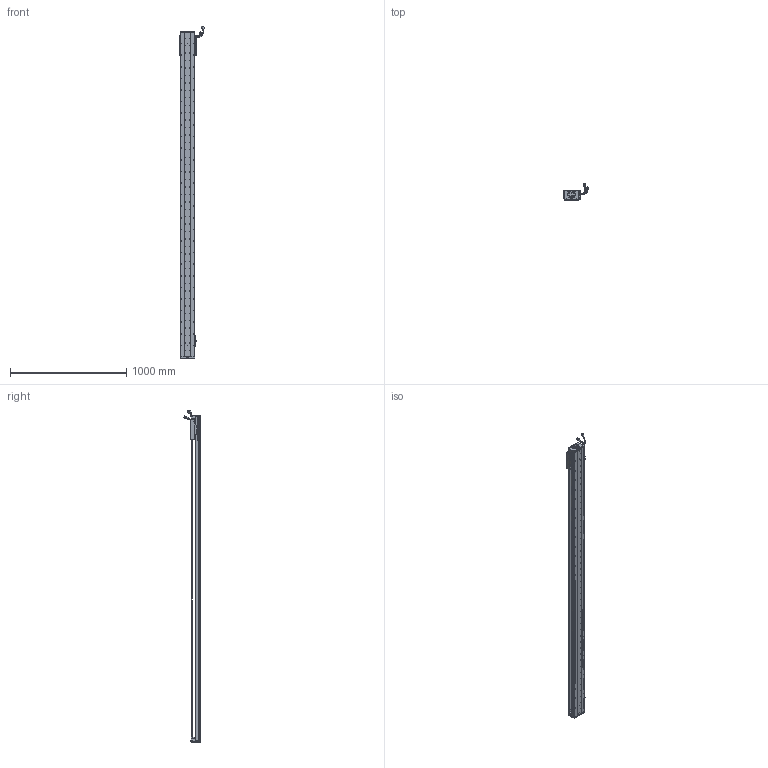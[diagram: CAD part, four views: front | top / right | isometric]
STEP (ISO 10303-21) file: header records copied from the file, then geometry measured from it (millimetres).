
FILE_DESCRIPTION (( 'STEP AP203' ), '1' );
FILE_NAME ('Z2-RY120D-1-L500-B-K.SLDASM_2550.step', '2021-05-17T05:39:31', ( '盈信电脑' ), ( '东莞市道滘镇水果街19号' ), 'SwSTEP 2.0', 'SolidWorks 2016', '' );
FILE_SCHEMA (( 'CONFIG_CONTROL_DESIGN' ));
Length unit declared in the file: millimetre
Products named in the file (37): PBU_SHEET; SHIELDPLATE; 榋妏寠巭燃_暯_M2_2; LABEL-Part-1; SCREW-M1.6-3; SCALE-Part-2; 080黍杅芛假蚾釱21遴; SCREW-M1.6-1; 覜茼ん672; SCREW-M1.6; HARNESS-Part-1; 120-Z-臏賑輸盄裔(21遴); Z-120詩湍傷裔啣; Z-RY120D詩湍奻揤裔; Z2-RY120D-1-L500-B-K.SLDASM_2550; SEAL; SCALE; COVER; Z2-RY120铝滑块（21款）; Z-RY120D詩湍狟揤裔; COVER-Part-1; Z2-RY120-L500詩湍100mm遵_2550; 140蚥薯蝶輸; SCALE-Part-1; 140雄赽晤鎢ん堤盄; 672嫖萇羲壽假蚾釱; PSLH080_PSLF2; SCREW-M1.7-1; Z2-RY120-500-倰第菁釱_2550; HARNESS-Part-2; LABEL; RY100FB-遵嫖萇覜茼え; HOLDER0; SEAL-Part-1; SCREW-M1.7; SCREW-M1.6-2; HARNESS
Assembly tree (43 placements, depth 4):
  Z2-RY120D-1-L500-B-K.SLDASM_2550
    Z2-RY120-500-倰第菁釱_2550
    覜茼ん672  x3
    672嫖萇羲壽假蚾釱  x2
    Z2-RY120铝滑块（21款）
    PSLH080_PSLF2
      SCALE
        SCALE-Part-1
        SCALE-Part-2
      HARNESS
        HARNESS-Part-1
        HARNESS-Part-2
      LABEL
        LABEL-Part-1
      COVER
        COVER-Part-1
      SEAL
        SEAL-Part-1
      榋妏寠巭燃_暯_M2_2
      SHIELDPLATE
      SCREW-M1.7
      SCREW-M1.7-1
      PBU_SHEET
      SCREW-M1.6
      SCREW-M1.6-1
      SCREW-M1.6-2
      SCREW-M1.6-3
      HOLDER0
    080黍杅芛假蚾釱21遴
    120-Z-臏賑輸盄裔(21遴)
    140雄赽晤鎢ん堤盄
    140蚥薯蝶輸  x2
    RY100FB-遵嫖萇覜茼え
    Z-120詩湍傷裔啣  x2
    Z-RY120D詩湍奻揤裔  x2
    Z-RY120D詩湍狟揤裔  x2
    Z2-RY120-L500詩湍100mm遵_2550
Bounding box: 222.83 x 140.94 x 2858.99 mm (x, y, z)
Volume: 6492576.4 mm3; surface area: 2302717.5 mm2
Topology: 38 solids, 38 shells, 3755 faces, 10750 edges, 6784 vertices
Faces by surface type: cylinder 1984, plane 1259, cone 390, torus 69, bspline 53
Entity records: 127129 total; most frequent: CARTESIAN_POINT 39310, ORIENTED_EDGE 18244, DIRECTION 16614, EDGE_CURVE 9122, AXIS2_PLACEMENT_3D 6144, VERTEX_POINT 5904, VECTOR 4326, LINE 4326
